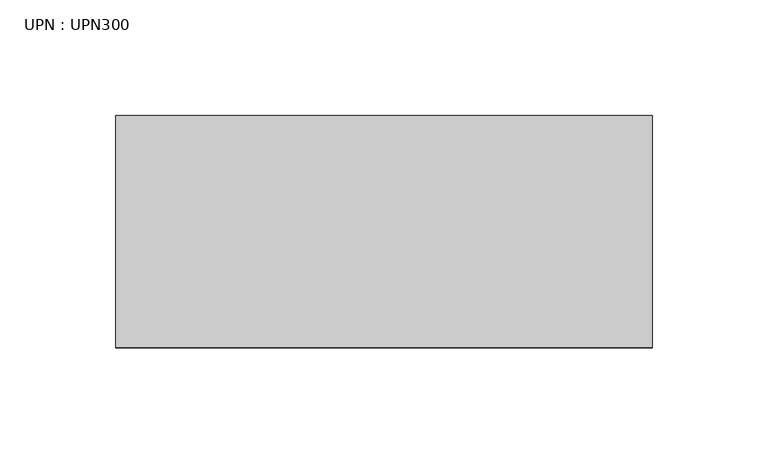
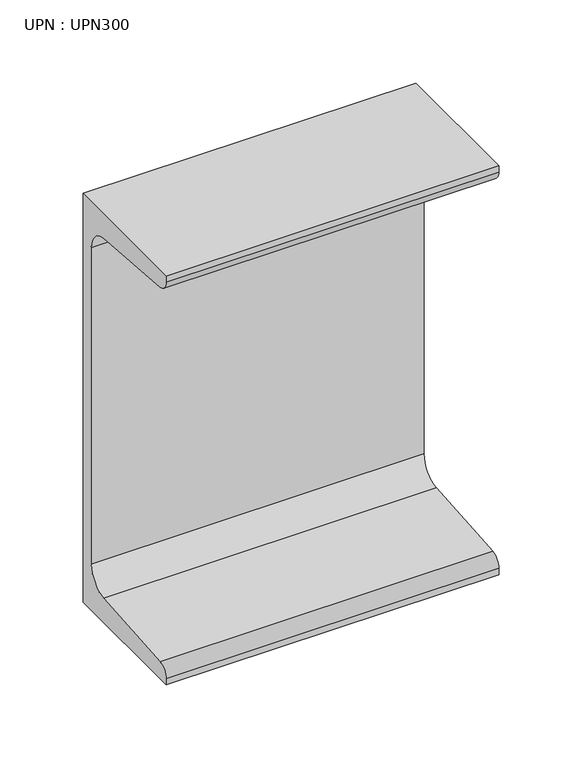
"""IFC4 building model written with IfcOpenShell, lengths in millimetres: beam geometry, UPN : UPN300."""

from ifc_helpers import new_model, si_unit, point, frame, frame_2d, origin, place, context, project, spatial, polyline, circle_curve, trimmed, segment, composite_curve, outline, extrude, source, transform, mapped, element, save


def upn_upn300_07cd2886(model_context):
    return source(origin(), model_context, "Body", "SweptSolid", [
        extrude(outline(composite_curve([segment(polyline([(27.0, 150.0), (27.0, -150.0), (-73.0, -150.0), (-73.0, -145.3826224)]), True, "CONTINUOUS"), segment(trimmed(circle_curve(frame_2d((-65.0, -145.3826224)), 8.0), [point((-73.0, -145.3826224))], [point((-65.637416, -137.4080566))], False, "CARTESIAN"), True, "CONTINUOUS"), segment(polyline([(-65.637416, -137.4080566), (2.274832, -131.9797543)]), True, "CONTINUOUS"), segment(trimmed(circle_curve(frame_2d((1.0, -116.0306225)), 16.0), [point((2.274832, -131.9797543))], [point((17.0, -116.0306225))], True, "CARTESIAN"), True, "CONTINUOUS"), segment(polyline([(17.0, -116.0306225), (17.0, 116.0306225)]), True, "CONTINUOUS"), segment(trimmed(circle_curve(frame_2d((1.0, 116.0306225)), 16.0), [point((17.0, 116.0306225))], [point((2.274832, 131.9797543))], True, "CARTESIAN"), True, "CONTINUOUS"), segment(polyline([(2.274832, 131.9797543), (-65.637416, 137.4080566)]), True, "CONTINUOUS"), segment(trimmed(circle_curve(frame_2d((-65.0, 145.3826224)), 8.0), [point((-65.637416, 137.4080566))], [point((-73.0, 145.3826224))], False, "CARTESIAN"), True, "CONTINUOUS"), segment(polyline([(-73.0, 145.3826224), (-73.0, 150.0), (27.0, 150.0)]), True, "CONTINUOUS")], self_intersect=False)), frame((-68.2, 0.0, 0.0), z_axis=(1.0, 0.0, 0.0), x_axis=(0.0, 1.0, 0.0)), (0.0, 0.0, 1.0), 231.1),
    ])


if __name__ == "__main__":
    model = new_model("IFC4")
    model_context = context("Model", 3, world=origin())
    ifc_project = project(units=[si_unit("LENGTHUNIT", "METRE", prefix="MILLI")], contexts=[model_context])
    site = spatial("IfcSite", under=ifc_project)
    building = spatial("IfcBuilding", under=site)
    placement = place(None, origin())
    upn_upn300_shape = upn_upn300_07cd2886(model_context)
    element("IfcBeam", 1, ObjectType="UPN : UPN300", at=placement, inside=building, context=model_context, shape_type="MappedRepresentation", body=[
        mapped(upn_upn300_shape, transform((0.0, 0.0, 0.0), x_axis=(1.0, 0.0, 0.0), y_axis=(0.0, 1.0, 0.0), z_axis=(0.0, 0.0, 1.0))),
    ])
    save(model, "model.ifc")
